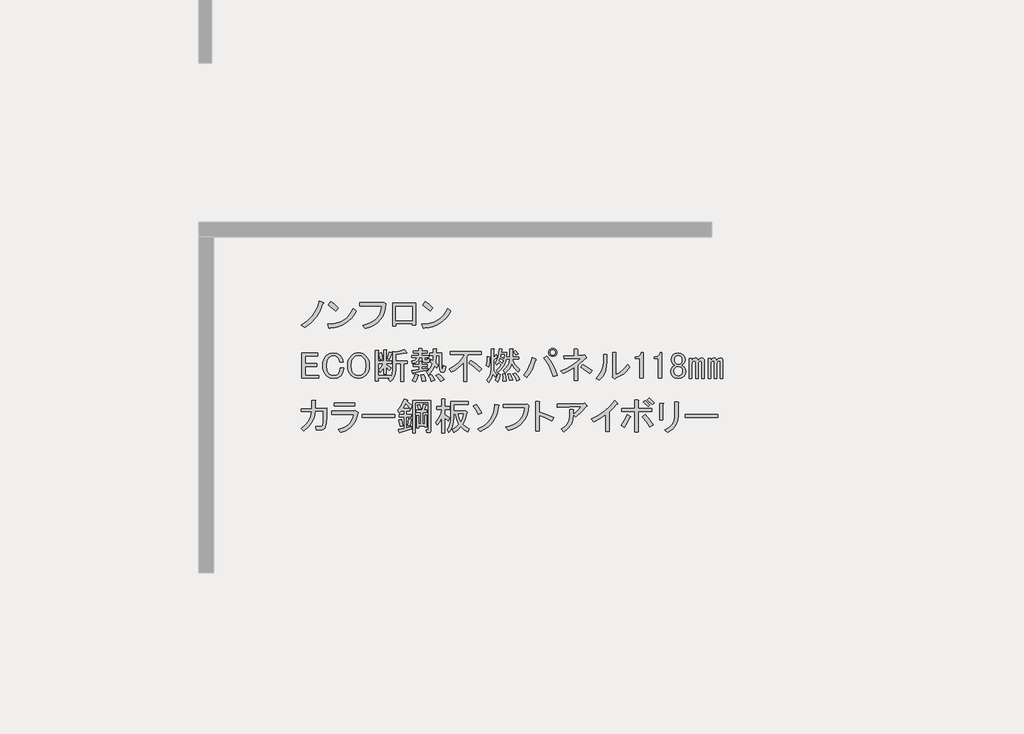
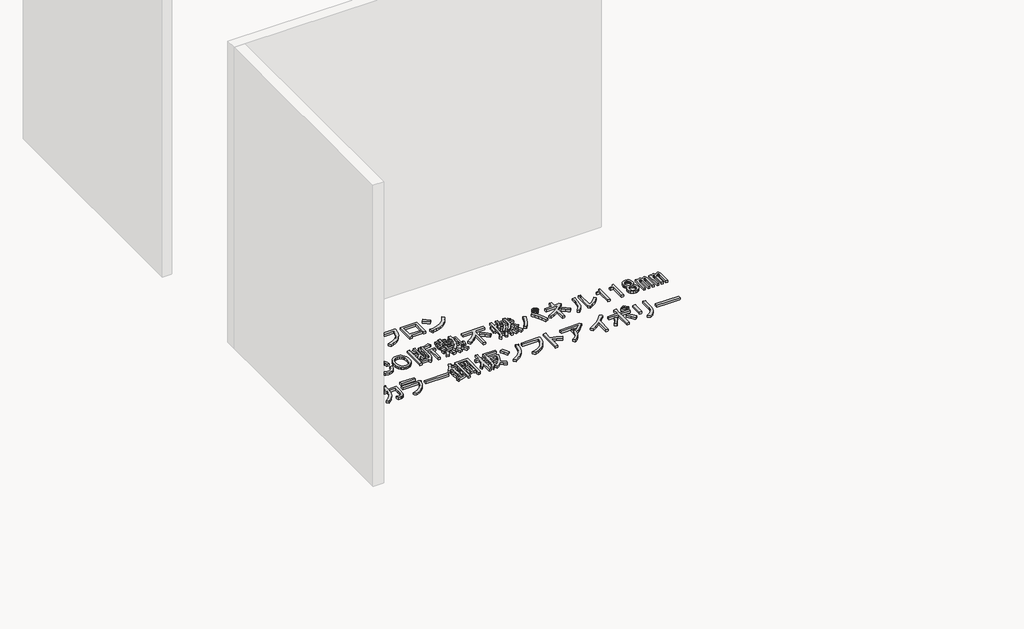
# One storey, part 47 of 117: 1 proxy.
"""IFC4 building model written with IfcOpenShell, lengths in millimetres."""

from ifc_helpers import new_model, si_unit, frame, origin, place, context, project, spatial, polyline, outline, extrude, element, save

model = new_model("IFC4")

# Units and contexts
model_context = context("Model", 3, world=origin())
ifc_project = project(units=[si_unit("LENGTHUNIT", "METRE", prefix="MILLI")], contexts=[model_context])

# Site, building, storey
site = spatial("IfcSite", under=ifc_project)
building = spatial("IfcBuilding", under=site)
storey = spatial("IfcBuildingStorey", under=building, Name="レベル 1", Elevation=500.0)

# Proxy
placement = place(None, origin())
element("IfcBuildingElementProxy", 1, Name="200㎜\u3000MS Pゴシック", ObjectType="200㎜\u3000MS Pゴシック", at=placement, inside=storey, context=model_context, shape_type="SweptSolid", body=[
    extrude(outline(polyline([(24977.6706985, -8641.0496882), (24952.0952502, -8700.8215225), (24923.646156, -8746.7998566), (24881.9782907, -8792.2034615), (24832.8389462, -8829.560858), (24805.2519457, -8807.7211493), (24852.9544673, -8777.2605029), (24892.6107805, -8738.7536481), (24909.9963381, -8714.8305462), (24925.3703435, -8686.7406577), (24938.7327969, -8654.4839827), (24950.0836981, -8618.0605212), (24981.1190736, -8631.8540214), (24984.2800841, -8636.4518548), (24977.6706985, -8641.0496882)])), frame((0.0, 0.0, 500.0), z_axis=(0.0, 0.0, 1.0), x_axis=(1.0, 0.0, 0.0)), (0.0, 0.0, 1.0), 25.0),
    extrude(outline(polyline([(25077.3977052, -8696.2236891), (25018.7753292, -8649.0958967), (25038.3161212, -8624.9572713), (25065.6157571, -8644.7854279), (25099.2374138, -8674.3839804), (25077.3977052, -8696.2236891)])), frame((0.0, 0.0, 500.0), z_axis=(0.0, 0.0, 1.0), x_axis=(1.0, 0.0, 0.0)), (0.0, 0.0, 1.0), 25.0),
    extrude(outline(polyline([(25239.4713328, -8696.2236891), (25222.947869, -8725.965924), (25203.8381239, -8751.9724192), (25182.1420975, -8774.2431748), (25157.8597898, -8792.7781907), (25130.9912008, -8807.577467), (25101.5363306, -8818.6410036), (25069.495179, -8825.9688006), (25034.8677461, -8829.560858), (25029.1204544, -8837.6070664), (25023.3731626, -8831.8597747), (25014.1774958, -8801.9738575), (25050.0082679, -8799.2977748), (25082.7857912, -8792.9937141), (25112.5100658, -8783.0616756), (25139.1810916, -8769.5016591), (25162.7988687, -8752.3136646), (25183.363397, -8731.4976923), (25200.8746766, -8707.053742), (25215.3327074, -8678.9818138), (25239.4713328, -8696.2236891)])), frame((0.0, 0.0, 500.0), z_axis=(0.0, 0.0, 1.0), x_axis=(1.0, 0.0, 0.0)), (0.0, 0.0, 1.0), 25.0),
    extrude(outline(polyline([(25290.2314136, -8811.1695243), (25324.014713, -8801.4889298), (25353.5234641, -8789.1142922), (25378.757667, -8774.0456116), (25399.7173217, -8756.282888), (25416.402428, -8735.8261214), (25428.8129862, -8712.6753118), (25436.9489961, -8686.8304591), (25440.8104577, -8658.2915635), (25268.3917049, -8658.2915635), (25268.3917049, -8633.0034798), (25443.1093744, -8633.0034798), (25459.2017914, -8629.5551047), (25471.8458332, -8641.0496882), (25468.325617, -8677.5449909), (25460.0638851, -8710.5919185), (25447.0606375, -8740.1904711), (25429.3158742, -8766.3406486), (25406.8295952, -8789.042451), (25379.6018005, -8808.2958784), (25347.6324901, -8824.1009308), (25310.921664, -8836.4576081), (25290.2314136, -8811.1695243)])), frame((0.0, 0.0, 500.0), z_axis=(0.0, 0.0, 1.0), x_axis=(1.0, 0.0, 0.0)), (0.0, 0.0, 1.0), 25.0),
    extrude(outline(polyline([(25704.955987, -8810.020066), (25678.5184449, -8810.020066), (25678.5184449, -8797.3760241), (25550.9285679, -8797.3760241), (25550.9285679, -8815.7673577), (25524.4910258, -8815.7673577), (25524.4910258, -8636.4518548), (25704.955987, -8636.4518548), (25704.955987, -8810.020066)]), holes=[polyline([(25550.9285679, -8661.7399386), (25550.9285679, -8772.0879404), (25678.5184449, -8772.0879404), (25678.5184449, -8661.7399386), (25550.9285679, -8661.7399386)])]), frame((0.0, 0.0, 500.0), z_axis=(0.0, 0.0, 1.0), x_axis=(1.0, 0.0, 0.0)), (0.0, 0.0, 1.0), 25.0),
    extrude(outline(polyline([(25981.0099049, -8696.2236891), (25964.4864411, -8725.965924), (25945.376696, -8751.9724192), (25923.6806696, -8774.2431748), (25899.3983619, -8792.7781907), (25872.5297729, -8807.577467), (25843.0749026, -8818.6410036), (25811.0337511, -8825.9688006), (25776.4063182, -8829.560858), (25770.6590264, -8837.6070664), (25764.9117347, -8831.8597747), (25755.7160679, -8801.9738575), (25791.5468399, -8799.2977748), (25824.3243633, -8792.9937141), (25854.0486378, -8783.0616756), (25880.7196637, -8769.5016591), (25904.3374407, -8752.3136646), (25924.9019691, -8731.4976923), (25942.4132486, -8707.053742), (25956.8712795, -8678.9818138), (25981.0099049, -8696.2236891)])), frame((0.0, 0.0, 500.0), z_axis=(0.0, 0.0, 1.0), x_axis=(1.0, 0.0, 0.0)), (0.0, 0.0, 1.0), 25.0),
    extrude(outline(polyline([(25818.9362772, -8696.2236891), (25760.3139013, -8649.0958967), (25779.8546933, -8624.9572713), (25807.1543291, -8644.7854279), (25840.7759859, -8674.3839804), (25818.9362772, -8696.2236891)])), frame((0.0, 0.0, 500.0), z_axis=(0.0, 0.0, 1.0), x_axis=(1.0, 0.0, 0.0)), (0.0, 0.0, 1.0), 25.0),
    extrude(outline(polyline([(24810.9992375, -9029.5551047), (24937.4396562, -9029.5551047), (24937.4396562, -9051.3948134), (24837.4367796, -9051.3948134), (24837.4367796, -9112.316106), (24930.5429061, -9112.316106), (24930.5429061, -9134.1558147), (24837.4367796, -9134.1558147), (24837.4367796, -9204.2727742), (24943.186948, -9204.2727742), (24943.186948, -9226.1124829), (24810.9992375, -9226.1124829), (24810.9992375, -9029.5551047)])), frame((0.0, 0.0, 500.0), z_axis=(0.0, 0.0, 1.0), x_axis=(1.0, 0.0, 0.0)), (0.0, 0.0, 1.0), 25.0),
    extrude(outline(polyline([(24975.2798252, -9128.408523), (24977.0758538, -9104.485421), (24982.4639399, -9083.2922827), (24991.4440832, -9064.8291079), (25004.016284, -9049.0958967), (25029.0170031, -9032.7161152), (25060.3397432, -9027.256188), (25091.0877541, -9032.141386), (25114.3642858, -9046.79698), (25130.1693381, -9070.3608762), (25136.2039944, -9099.6720642), (25108.616994, -9099.6720642), (25103.731796, -9078.4070847), (25093.6740354, -9062.8893969), (25078.4437123, -9052.5442717), (25060.3397432, -9049.0958967), (25040.7989512, -9053.1190009), (25023.5570759, -9065.1883136), (25014.5050914, -9076.8984206), (25008.0393882, -9091.3384911), (25002.8668256, -9128.408523), (25008.0393882, -9165.4785548), (25014.5050914, -9179.9186254), (25023.5570759, -9191.6287323), (25040.2242221, -9202.8359513), (25060.3397432, -9206.5716909), (25080.742629, -9203.4106804), (25095.9729521, -9193.927649), (25108.0422648, -9174.3868571), (25112.0653691, -9147.949315), (25139.6523695, -9147.949315), (25133.3303486, -9182.7204301), (25126.2899162, -9196.8731361), (25116.6632025, -9208.8706076), (25105.8151893, -9217.4197041), (25092.8119417, -9223.5262016), (25060.3397432, -9228.4113996), (25029.0170031, -9222.9514724), (25004.016284, -9206.5716909), (24991.4440832, -9190.9103209), (24982.4639399, -9172.6626695), (24977.0758538, -9151.8287369), (24975.2798252, -9128.408523)])), frame((0.0, 0.0, 500.0), z_axis=(0.0, 0.0, 1.0), x_axis=(1.0, 0.0, 0.0)), (0.0, 0.0, 1.0), 25.0),
    extrude(outline(polyline([(25170.6417667, -9127.2590646), (25172.3659542, -9104.4135799), (25177.5385168, -9084.1543764), (25186.1594544, -9066.4814543), (25198.2287671, -9051.3948134), (25210.9446501, -9040.8341648), (25224.9536738, -9033.2908443), (25240.2558381, -9028.7648521), (25256.8511431, -9027.256188), (25273.446448, -9028.7648521), (25288.7486123, -9033.2908443), (25302.757636, -9040.8341648), (25315.473519, -9051.3948134), (25327.5428317, -9066.4814543), (25336.1637694, -9084.1543764), (25341.336332, -9104.4135799), (25343.0605195, -9127.2590646), (25341.336332, -9150.1045494), (25336.1637694, -9170.3637528), (25327.5428317, -9188.036675), (25315.473519, -9203.1233159), (25302.757636, -9213.6839645), (25288.7486123, -9221.2272849), (25273.446448, -9225.7532772), (25256.8511431, -9227.2619413), (25240.2558381, -9225.7532772), (25224.9536738, -9221.2272849), (25210.9446501, -9213.6839645), (25198.2287671, -9203.1233159), (25186.1594544, -9188.036675), (25177.5385168, -9170.3637528), (25172.3659542, -9150.1045494), (25170.6417667, -9127.2590646)]), holes=[polyline([(25256.8511431, -9049.0958967), (25236.1608927, -9053.4063655), (25217.7695591, -9066.337772), (25209.2204626, -9077.4731498), (25203.1139651, -9091.3384911), (25198.2287671, -9127.2590646), (25203.1139651, -9163.1796381), (25209.2204626, -9177.0449795), (25217.7695591, -9188.1803573), (25236.1608927, -9201.1117637), (25256.8511431, -9205.4222326), (25277.5413934, -9201.1117637), (25295.932727, -9188.1803573), (25304.4818235, -9177.0449795), (25310.588321, -9163.1796381), (25315.473519, -9127.2590646), (25310.588321, -9091.3384911), (25304.4818235, -9077.4731498), (25295.932727, -9066.337772), (25277.5413934, -9053.4063655), (25256.8511431, -9049.0958967)])]), frame((0.0, 0.0, 500.0), z_axis=(0.0, 0.0, 1.0), x_axis=(1.0, 0.0, 0.0)), (0.0, 0.0, 1.0), 25.0),
    extrude(outline(polyline([(25481.8691101, -9073.2345221), (25499.1109854, -9020.3594379), (25519.8012357, -9026.1067296), (25521.5254232, -9029.2677401), (25517.502319, -9031.8540214), (25500.2604437, -9080.1312722), (25481.8691101, -9073.2345221)])), frame((0.0, 0.0, 500.0), z_axis=(0.0, 0.0, 1.0), x_axis=(1.0, 0.0, 0.0)), (0.0, 0.0, 1.0), 25.0),
    extrude(outline(polyline([(25635.8965292, -9024.9572713), (25634.1723417, -9029.5551047), (25626.7008624, -9027.256188), (25549.6871528, -9039.9002299), (25549.6871528, -9089.326939), (25641.643821, -9089.326939), (25641.643821, -9111.1666477), (25610.6084455, -9111.1666477), (25610.6084455, -9251.4005666), (25587.6192785, -9251.4005666), (25587.6192785, -9111.1666477), (25549.6871528, -9111.1666477), (25549.6871528, -9160.5933568), (25547.1008716, -9188.3958807), (25539.3420277, -9213.1810764), (25526.4106212, -9234.948944), (25508.3066522, -9253.6994833), (25491.0647769, -9234.1586914), (25501.4099021, -9224.9630245), (25411.7521506, -9224.9630245), (25411.7521506, -9246.8027332), (25388.7629836, -9246.8027332), (25388.7629836, -9007.715396), (25410.6026922, -9007.715396), (25415.4878902, -9010.0143127), (25411.7521506, -9014.6121461), (25411.7521506, -9090.4763974), (25454.2821096, -9090.4763974), (25454.2821096, -9003.1175626), (25472.6734433, -9003.1175626), (25477.5586413, -9005.4164793), (25473.8229016, -9010.0143127), (25473.8229016, -9090.4763974), (25517.502319, -9090.4763974), (25517.502319, -9108.867731), (25473.8229016, -9108.867731), (25473.8229016, -9118.0633978), (25514.0539439, -9144.5009399), (25500.2604437, -9166.3406486), (25473.8229016, -9139.9031065), (25473.8229016, -9192.7781907), (25454.2821096, -9192.7781907), (25454.2821096, -9144.5009399), (25441.0633386, -9164.3290965), (25426.6951092, -9180.1341488), (25414.0510673, -9161.7428152), (25435.890776, -9137.6041898), (25453.1326513, -9108.867731), (25411.7521506, -9108.867731), (25411.7521506, -9203.1233159), (25509.4561105, -9203.1233159), (25509.4561105, -9216.9168161), (25522.387517, -9192.7781907), (25526.6979858, -9159.4438985), (25526.6979858, -9014.6121461), (25548.5376945, -9020.3594379), (25584.7456326, -9012.8879586), (25615.2062789, -8999.6691875), (25635.8965292, -9024.9572713)])), frame((0.0, 0.0, 500.0), z_axis=(0.0, 0.0, 1.0), x_axis=(1.0, 0.0, 0.0)), (0.0, 0.0, 1.0), 25.0),
    extrude(outline(polyline([(25427.8445675, -9081.2807305), (25415.2005257, -9030.7045631), (25434.7413176, -9023.8078129), (25442.5001615, -9047.9464383), (25447.3853595, -9074.3839804), (25427.8445675, -9081.2807305)])), frame((0.0, 0.0, 500.0), z_axis=(0.0, 0.0, 1.0), x_axis=(1.0, 0.0, 0.0)), (0.0, 0.0, 1.0), 25.0),
    extrude(outline(polyline([(25771.5326148, -9197.3760241), (25781.5903754, -9224.67566), (25786.4755734, -9246.8027332), (25757.7391146, -9252.550025), (25755.1528333, -9230.9976809), (25747.3939894, -9200.8243992), (25771.5326148, -9197.3760241)])), frame((0.0, 0.0, 500.0), z_axis=(0.0, 0.0, 1.0), x_axis=(1.0, 0.0, 0.0)), (0.0, 0.0, 1.0), 25.0),
    extrude(outline(polyline([(25827.856074, -9250.2511083), (25819.522501, -9225.5377537), (25806.0163654, -9204.2727742), (25826.7066157, -9196.2265657), (25843.6611264, -9217.7789098), (25855.4430745, -9241.0554415), (25827.856074, -9250.2511083)])), frame((0.0, 0.0, 500.0), z_axis=(0.0, 0.0, 1.0), x_axis=(1.0, 0.0, 0.0)), (0.0, 0.0, 1.0), 25.0),
    extrude(outline(polyline([(25726.7037391, -9201.9738575), (25730.1521141, -9206.8590555), (25724.4048224, -9210.020066), (25714.6344264, -9235.5955143), (25703.714572, -9254.8489417), (25680.725405, -9243.3543582), (25693.3694469, -9219.790462), (25703.714572, -9192.7781907), (25726.7037391, -9201.9738575)])), frame((0.0, 0.0, 500.0), z_axis=(0.0, 0.0, 1.0), x_axis=(1.0, 0.0, 0.0)), (0.0, 0.0, 1.0), 25.0),
    extrude(outline(polyline([(25758.8885729, -9065.1883136), (25733.6004892, -9065.1883136), (25729.0026558, -9082.6457123), (25718.6575306, -9095.9363245), (25702.5651137, -9105.0601502), (25680.725405, -9110.0171893), (25676.1275716, -9090.4763974), (25701.4156553, -9081.8554597), (25708.8871346, -9074.5276627), (25712.9102388, -9065.1883136), (25677.2770299, -9065.1883136), (25677.2770299, -9046.79698), (25731.3015725, -9046.79698), (25731.3015725, -9029.5551047), (25687.6221551, -9029.5551047), (25687.6221551, -9011.1637711), (25731.3015725, -9011.1637711), (25731.3015725, -8992.7724374), (25753.1412812, -8992.7724374), (25758.0264792, -8995.0713541), (25754.2907395, -8999.6691875), (25754.2907395, -9011.1637711), (25796.8206985, -9011.1637711), (25796.8206985, -9029.5551047), (25754.2907395, -9029.5551047), (25754.2907395, -9046.79698), (25807.1658237, -9046.79698), (25807.1658237, -9065.1883136), (25778.4293649, -9065.1883136), (25778.4293649, -9077.8323555), (25779.8661878, -9083.0049181), (25784.1766567, -9084.7291056), (25794.5217818, -9084.7291056), (25798.2575215, -9081.5680951), (25797.9701569, -9072.0850637), (25817.5109489, -9074.3839804), (25814.637303, -9095.9363245), (25809.3210581, -9101.3244106), (25801.4185319, -9103.1204392), (25777.2799066, -9103.1204392), (25763.4864063, -9098.2352412), (25758.8885729, -9083.5796472), (25758.8885729, -9065.1883136)])), frame((0.0, 0.0, 500.0), z_axis=(0.0, 0.0, 1.0), x_axis=(1.0, 0.0, 0.0)), (0.0, 0.0, 1.0), 25.0),
    extrude(outline(polyline([(25889.9268251, -9047.9464383), (25868.0871164, -9047.9464383), (25863.489283, -9105.4193559), (25883.0300749, -9123.8106896), (25872.6849498, -9145.6503983), (25856.5925328, -9129.5579813), (25837.3391054, -9167.2027424), (25807.1658237, -9199.6749408), (25789.9239484, -9178.9846905), (25805.0105893, -9167.0590601), (25818.085678, -9151.9724192), (25829.1492147, -9133.7247679), (25838.2011992, -9112.316106), (25820.9593239, -9097.3731475), (25829.0055324, -9080.1312722), (25842.7990326, -9090.4763974), (25845.0979493, -9047.9464383), (25817.5109489, -9047.9464383), (25817.5109489, -9029.5551047), (25845.0979493, -9029.5551047), (25845.0979493, -8995.0713541), (25866.937658, -8995.0713541), (25871.822856, -8997.3702708), (25868.0871164, -9001.9681043), (25868.0871164, -9029.5551047), (25909.467617, -9029.5551047), (25909.467617, -9126.1096063), (25912.9159921, -9150.2482317), (25916.1488437, -9152.2597838), (25918.9506484, -9149.0987733), (25923.2611173, -9127.2590646), (25942.8019092, -9134.1558147), (25938.275917, -9160.9525626), (25930.445232, -9176.9731384), (25919.3098542, -9182.2175421), (25904.8697836, -9176.6857738), (25898.3322393, -9169.3579768), (25893.6625647, -9157.719711), (25889.9268251, -9121.5117729), (25889.9268251, -9047.9464383)])), frame((0.0, 0.0, 500.0), z_axis=(0.0, 0.0, 1.0), x_axis=(1.0, 0.0, 0.0)), (0.0, 0.0, 1.0), 25.0),
    extrude(outline(polyline([(25688.7716134, -9187.0308989), (25686.7600613, -9191.9160969), (25683.0243217, -9190.479274), (25677.2770299, -9166.3406486), (25732.4510308, -9158.2944401), (25732.4510308, -9135.3052731), (25688.7716134, -9135.3052731), (25688.7716134, -9116.9139395), (25732.4510308, -9116.9139395), (25732.4510308, -9093.9247724), (25750.8423645, -9093.9247724), (25755.7275625, -9096.2236891), (25751.9918228, -9100.8215225), (25751.9918228, -9116.9139395), (25796.8206985, -9116.9139395), (25796.8206985, -9135.3052731), (25751.9918228, -9135.3052731), (25751.9918228, -9154.8460651), (25802.5679903, -9145.6503983), (25802.5679903, -9161.7428152), (25688.7716134, -9187.0308989)])), frame((0.0, 0.0, 500.0), z_axis=(0.0, 0.0, 1.0), x_axis=(1.0, 0.0, 0.0)), (0.0, 0.0, 1.0), 25.0),
    extrude(outline(polyline([(25886.47845, -9191.6287323), (25911.1918046, -9212.8937119), (25930.1578674, -9237.6070664), (25903.7203253, -9252.550025), (25884.4668979, -9222.9514724), (25865.7881997, -9203.1233159), (25886.47845, -9191.6287323)])), frame((0.0, 0.0, 500.0), z_axis=(0.0, 0.0, 1.0), x_axis=(1.0, 0.0, 0.0)), (0.0, 0.0, 1.0), 25.0),
    extrude(outline(polyline([(26204.8784135, -9175.5363154), (26165.7968295, -9137.3168252), (26124.4163289, -9107.7182726), (26140.5087458, -9087.0280223), (26184.1881632, -9115.1897519), (26225.5686638, -9153.6966067), (26204.8784135, -9175.5363154)])), frame((0.0, 0.0, 500.0), z_axis=(0.0, 0.0, 1.0), x_axis=(1.0, 0.0, 0.0)), (0.0, 0.0, 1.0), 25.0),
    extrude(outline(polyline([(25978.4351182, -9014.6121461), (26219.8213721, -9014.6121461), (26219.8213721, -9039.9002299), (26119.8184955, -9039.9002299), (26109.4733703, -9064.0388553), (26109.4733703, -9250.2511083), (26083.0358282, -9250.2511083), (26083.0358282, -9103.1204392), (26062.2018956, -9126.3969709), (26038.7816816, -9146.7998566), (26012.7751864, -9164.3290965), (25984.1824099, -9178.9846905), (25968.089993, -9152.5471484), (26007.674465, -9132.1442626), (26041.3679629, -9106.5688143), (26069.1704868, -9075.8208034), (26091.0820367, -9039.9002299), (25978.4351182, -9039.9002299), (25978.4351182, -9014.6121461)])), frame((0.0, 0.0, 500.0), z_axis=(0.0, 0.0, 1.0), x_axis=(1.0, 0.0, 0.0)), (0.0, 0.0, 1.0), 25.0),
    extrude(outline(polyline([(26392.2401249, -9249.1016499), (26392.8148541, -9222.0893787), (26389.9412082, -9193.927649), (26409.4820002, -9192.7781907), (26415.8040211, -9218.9283682), (26416.3787503, -9246.8027332), (26392.2401249, -9249.1016499)])), frame((0.0, 0.0, 500.0), z_axis=(0.0, 0.0, 1.0), x_axis=(1.0, 0.0, 0.0)), (0.0, 0.0, 1.0), 25.0),
    extrude(outline(polyline([(26372.6993329, -9197.3760241), (26364.0783953, -9227.8366704), (26349.7101659, -9254.8489417), (26330.1693739, -9242.2048998), (26344.2502387, -9217.4915453), (26354.3079993, -9189.3298156), (26372.6993329, -9197.3760241)])), frame((0.0, 0.0, 500.0), z_axis=(0.0, 0.0, 1.0), x_axis=(1.0, 0.0, 0.0)), (0.0, 0.0, 1.0), 25.0),
    extrude(outline(polyline([(26287.6394149, -9059.4410219), (26292.2372483, -9061.7399386), (26287.6394149, -9066.337772), (26286.4899565, -9105.9940851), (26280.7426647, -9139.9031065), (26262.3513311, -9127.2590646), (26268.0986229, -9092.7753141), (26269.2480812, -9055.9926468), (26287.6394149, -9059.4410219)])), frame((0.0, 0.0, 500.0), z_axis=(0.0, 0.0, 1.0), x_axis=(1.0, 0.0, 0.0)), (0.0, 0.0, 1.0), 25.0),
    extrude(outline(polyline([(26339.3650407, -9041.0496882), (26348.5607075, -9058.2915635), (26349.9975305, -9064.3262199), (26345.1123325, -9064.0388553), (26318.6747904, -9084.7291056), (26318.6747904, -9168.6395653), (26332.4682906, -9180.9962426), (26343.9628741, -9197.3760241), (26331.3188322, -9218.0662744), (26312.9274986, -9192.7781907), (26301.1455505, -9228.6987642), (26279.5932064, -9258.2973168), (26264.6502478, -9239.9059831), (26279.7368887, -9221.1554438), (26290.5130607, -9200.5370346), (26296.978764, -9178.0507556), (26299.1339984, -9153.6966067), (26299.1339984, -8996.2208125), (26317.525332, -8996.2208125), (26322.41053, -8998.5197292), (26318.6747904, -9003.1175626), (26318.6747904, -9061.7399386), (26339.3650407, -9041.0496882)])), frame((0.0, 0.0, 500.0), z_axis=(0.0, 0.0, 1.0), x_axis=(1.0, 0.0, 0.0)), (0.0, 0.0, 1.0), 25.0),
    extrude(outline(polyline([(26489.9440848, -9010.0143127), (26511.7837935, -9034.1529381), (26494.5419182, -9045.6475216), (26487.9325327, -9034.1529381), (26475.0011262, -9020.3594379), (26489.9440848, -9010.0143127)])), frame((0.0, 0.0, 500.0), z_axis=(0.0, 0.0, 1.0), x_axis=(1.0, 0.0, 0.0)), (0.0, 0.0, 1.0), 25.0),
    extrude(outline(polyline([(26500.28921, -9246.8027332), (26487.0704389, -9218.6410036), (26470.4032928, -9193.927649), (26488.7946265, -9185.8814406), (26507.7606893, -9208.8706076), (26523.278377, -9236.4576081), (26500.28921, -9246.8027332)])), frame((0.0, 0.0, 500.0), z_axis=(0.0, 0.0, 1.0), x_axis=(1.0, 0.0, 0.0)), (0.0, 0.0, 1.0), 25.0),
    extrude(outline(polyline([(26450.8625008, -9191.6287323), (26469.2538345, -9241.0554415), (26445.1152091, -9245.6532749), (26431.3217089, -9195.0771074), (26450.8625008, -9191.6287323)])), frame((0.0, 0.0, 500.0), z_axis=(0.0, 0.0, 1.0), x_axis=(1.0, 0.0, 0.0)), (0.0, 0.0, 1.0), 25.0),
    extrude(outline(polyline([(26511.7837935, -9176.6857738), (26481.0357826, -9146.2251274), (26460.0581677, -9112.316106), (26451.6527535, -9134.4431793), (26440.2300111, -9153.6966067), (26425.7899405, -9170.0763882), (26408.3325418, -9183.5825239), (26394.5390416, -9165.1911902), (26415.3729742, -9146.2969686), (26430.7469797, -9125.2475125), (26440.661058, -9102.042822), (26445.1152091, -9076.6828971), (26416.3787503, -9076.6828971), (26408.404383, -9107.2872258), (26394.8264062, -9134.7305439), (26375.6448199, -9159.0128516), (26350.8596242, -9180.1341488), (26338.2155823, -9164.0417319), (26364.0783953, -9142.4893878), (26379.596083, -9121.5117729), (26357.7563743, -9101.9709809), (26343.9628741, -9122.6612312), (26330.1693739, -9107.7182726), (26342.5978923, -9088.6803687), (26352.2964472, -9063.7514907), (26359.2650384, -9032.9316386), (26363.5036661, -8996.2208125), (26384.1939164, -8998.5197292), (26387.6422915, -9001.1060105), (26381.8949997, -9004.267021), (26379.596083, -9022.6583546), (26423.2755004, -9022.6583546), (26419.8271253, -9058.2915635), (26445.1152091, -9058.2915635), (26445.1152091, -8996.2208125), (26466.9549178, -8996.2208125), (26471.8401158, -8998.5197292), (26468.1043761, -9003.1175626), (26468.1043761, -9058.2915635), (26517.5310853, -9058.2915635), (26517.5310853, -9076.6828971), (26468.1043761, -9076.6828971), (26474.6419205, -9098.4507647), (26486.2083452, -9118.9254916), (26502.8036501, -9138.1070778), (26524.4278354, -9155.9955234), (26511.7837935, -9176.6857738)]), holes=[polyline([(26387.6422915, -9106.5688143), (26394.5390416, -9087.0280223), (26369.2509579, -9070.9356054), (26363.5036661, -9088.1774807), (26387.6422915, -9106.5688143)]), polyline([(26377.2971663, -9041.0496882), (26373.8487913, -9057.1421052), (26399.136875, -9070.9356054), (26403.7347084, -9041.0496882), (26377.2971663, -9041.0496882)])]), frame((0.0, 0.0, 500.0), z_axis=(0.0, 0.0, 1.0), x_axis=(1.0, 0.0, 0.0)), (0.0, 0.0, 1.0), 25.0),
    extrude(outline(polyline([(26737.0776305, -9050.245355), (26763.730696, -9086.9561812), (26786.2169751, -9124.6727833), (26804.5364675, -9163.3951616), (26818.6891735, -9203.1233159), (26787.653798, -9213.468441), (26772.2079514, -9170.3637528), (26754.6068704, -9131.856898), (26734.850555, -9097.9478766), (26712.9390051, -9068.6366887), (26737.0776305, -9050.245355)])), frame((0.0, 0.0, 500.0), z_axis=(0.0, 0.0, 1.0), x_axis=(1.0, 0.0, 0.0)), (0.0, 0.0, 1.0), 25.0),
    extrude(outline(polyline([(26649.7187958, -9076.6828971), (26653.7419, -9082.1428243), (26647.419879, -9087.0280223), (26635.4942486, -9122.4457078), (26620.4076078, -9156.282888), (26602.1599564, -9188.539563), (26580.7512946, -9219.2157328), (26554.3137525, -9201.9738575), (26577.518443, -9170.5074351), (26596.556347, -9137.0294606), (26611.4274644, -9101.539934), (26622.1317953, -9064.0388553), (26649.7187958, -9076.6828971)])), frame((0.0, 0.0, 500.0), z_axis=(0.0, 0.0, 1.0), x_axis=(1.0, 0.0, 0.0)), (0.0, 0.0, 1.0), 25.0),
    extrude(outline(polyline([(26783.0559646, -9055.9926468), (26770.4119227, -9053.6937301), (26760.0667975, -9046.79698), (26753.1700474, -9036.4518548), (26750.8711307, -9023.8078129), (26753.1700474, -9011.1637711), (26760.0667975, -9000.8186459), (26770.4119227, -8993.9218958), (26783.0559646, -8991.6229791), (26795.7000065, -8993.9218958), (26806.0451316, -9000.8186459), (26812.9418817, -9011.1637711), (26815.2407984, -9023.8078129), (26812.9418817, -9036.4518548), (26806.0451316, -9046.79698), (26795.7000065, -9053.6937301), (26783.0559646, -9055.9926468)]), holes=[polyline([(26783.0559646, -9044.4980633), (26791.3895376, -9043.0612403), (26797.9989232, -9038.7507715), (26802.309392, -9032.141386), (26803.7462149, -9023.8078129), (26802.309392, -9015.4742399), (26797.9989232, -9008.8648544), (26791.3895376, -9004.5543855), (26783.0559646, -9003.1175626), (26774.7223915, -9004.5543855), (26768.113006, -9008.8648544), (26763.8025372, -9015.4742399), (26762.3657143, -9023.8078129), (26763.8025372, -9032.141386), (26768.113006, -9038.7507715), (26774.7223915, -9043.0612403), (26783.0559646, -9044.4980633)])]), frame((0.0, 0.0, 500.0), z_axis=(0.0, 0.0, 1.0), x_axis=(1.0, 0.0, 0.0)), (0.0, 0.0, 1.0), 25.0),
    extrude(outline(polyline([(27026.7411352, -9045.6475216), (27033.6378853, -9043.3486049), (27046.2819272, -9060.5904802), (27047.4313856, -9066.6251366), (27041.6840938, -9068.6366887), (26978.4638844, -9124.9601479), (26978.4638844, -9245.6532749), (26952.0263423, -9245.6532749), (26952.0263423, -9143.3514816), (26911.7953, -9167.4901069), (26866.9664243, -9189.3298156), (26847.4256323, -9168.6395653), (26892.9729195, -9149.1706145), (26934.2097379, -9126.3969709), (26971.1360874, -9100.3186345), (27003.7519682, -9070.9356054), (26873.8631744, -9076.6828971), (26870.4147993, -9051.3948134), (26952.0263423, -9049.0958967), (26952.0263423, -8997.3702708), (26975.0155094, -8997.3702708), (26981.0501657, -9000.8186459), (26978.4638844, -9006.5659377), (26978.4638844, -9047.9464383), (27026.7411352, -9045.6475216)])), frame((0.0, 0.0, 500.0), z_axis=(0.0, 0.0, 1.0), x_axis=(1.0, 0.0, 0.0)), (0.0, 0.0, 1.0), 25.0),
    extrude(outline(polyline([(27072.7194693, -9189.3298156), (27035.6494375, -9160.0186277), (27002.6025098, -9138.7536481), (27019.8443851, -9116.9139395), (27058.6386045, -9140.1904711), (27092.2602613, -9166.3406486), (27072.7194693, -9189.3298156)])), frame((0.0, 0.0, 500.0), z_axis=(0.0, 0.0, 1.0), x_axis=(1.0, 0.0, 0.0)), (0.0, 0.0, 1.0), 25.0),
    extrude(outline(polyline([(27279.7139293, -9196.2265657), (27304.4991251, -9184.0135708), (27328.2785447, -9166.9153778), (27351.0521883, -9144.9319868), (27372.8200559, -9118.0633978), (27388.9124728, -9139.9031065), (27365.6359412, -9167.7056304), (27339.4857636, -9191.3413678), (27310.4619403, -9210.8103186), (27278.564471, -9226.1124829), (27269.3688042, -9230.7103163), (27250.9774705, -9216.9168161), (27253.2763872, -9211.1695243), (27253.2763872, -9026.1067296), (27277.4150126, -9026.1067296), (27283.1623044, -9029.5551047), (27279.7139293, -9035.3023965), (27279.7139293, -9196.2265657)])), frame((0.0, 0.0, 500.0), z_axis=(0.0, 0.0, 1.0), x_axis=(1.0, 0.0, 0.0)), (0.0, 0.0, 1.0), 25.0),
    extrude(outline(polyline([(27125.6865102, -9227.2619413), (27150.8309116, -9198.0225944), (27168.7911984, -9165.4785548), (27179.5673704, -9129.6298225), (27183.1594278, -9090.4763974), (27183.1594278, -9038.7507715), (27207.2980532, -9038.7507715), (27213.0453449, -9042.1991466), (27209.5969699, -9047.9464383), (27209.5969699, -9089.326939), (27205.7893891, -9135.0897496), (27194.3666467, -9175.82368), (27175.3287427, -9211.5287301), (27148.6756772, -9242.2048998), (27125.6865102, -9227.2619413)])), frame((0.0, 0.0, 500.0), z_axis=(0.0, 0.0, 1.0), x_axis=(1.0, 0.0, 0.0)), (0.0, 0.0, 1.0), 25.0),
    extrude(outline(polyline([(27468.2250991, -9049.0958967), (27476.2713075, -9038.1760423), (27479.7196826, -9026.1067296), (27493.5131828, -9026.1067296), (27493.5131828, -9224.9630245), (27467.0756407, -9224.9630245), (27467.0756407, -9072.0850637), (27432.5918902, -9072.0850637), (27432.5918902, -9058.2915635), (27442.9370153, -9058.2915635), (27457.3052447, -9055.9926468), (27468.2250991, -9049.0958967)])), frame((0.0, 0.0, 500.0), z_axis=(0.0, 0.0, 1.0), x_axis=(1.0, 0.0, 0.0)), (0.0, 0.0, 1.0), 25.0),
    extrude(outline(polyline([(27615.3557681, -9049.0958967), (27623.4019766, -9038.1760423), (27626.8503517, -9026.1067296), (27640.6438519, -9026.1067296), (27640.6438519, -9224.9630245), (27614.2063098, -9224.9630245), (27614.2063098, -9072.0850637), (27579.7225592, -9072.0850637), (27579.7225592, -9058.2915635), (27590.0676844, -9058.2915635), (27604.4359138, -9055.9926468), (27615.3557681, -9049.0958967)])), frame((0.0, 0.0, 500.0), z_axis=(0.0, 0.0, 1.0), x_axis=(1.0, 0.0, 0.0)), (0.0, 0.0, 1.0), 25.0),
    extrude(outline(polyline([(27715.3586448, -9082.4301889), (27719.381749, -9059.4410219), (27731.4510617, -9041.0496882), (27747.8308432, -9030.7045631), (27769.3831873, -9027.256188), (27791.222896, -9030.9919276), (27808.4647713, -9042.1991466), (27819.6719902, -9059.7283864), (27823.4077299, -9082.4301889), (27819.9593548, -9100.5341579), (27809.6142296, -9115.7644811), (27795.8207294, -9123.8106896), (27795.8207294, -9126.1096063), (27805.87849, -9130.1327105), (27815.3615214, -9137.6041898), (27825.7066466, -9153.6966067), (27829.1550216, -9174.3868571), (27825.1319174, -9195.6518366), (27813.0626047, -9213.468441), (27794.6712711, -9224.67566), (27769.3831873, -9228.4113996), (27744.0951036, -9224.67566), (27725.7037699, -9213.468441), (27713.6344572, -9195.6518366), (27709.611353, -9174.3868571), (27713.0597281, -9153.6966067), (27723.4048532, -9137.6041898), (27732.8878846, -9130.1327105), (27742.9456452, -9126.1096063), (27742.9456452, -9123.8106896), (27728.0026866, -9113.4655644), (27718.5196552, -9099.3846996), (27715.3586448, -9082.4301889)]), holes=[polyline([(27769.3831873, -9047.9464383), (27758.7506976, -9049.9579904), (27749.8423953, -9055.9926468), (27742.9456452, -9067.1998657), (27740.6467285, -9082.4301889), (27742.9456452, -9096.7984183), (27749.8423953, -9107.7182726), (27758.463333, -9113.752929), (27768.233729, -9115.7644811), (27780.3030417, -9114.0402936), (27788.9239793, -9108.867731), (27795.8207294, -9097.6605121), (27798.1196461, -9082.4301889), (27795.8207294, -9067.1998657), (27788.9239793, -9055.9926468), (27780.0156771, -9049.9579904), (27769.3831873, -9047.9464383)]), polyline([(27769.3831873, -9135.3052731), (27755.8770517, -9137.6041898), (27745.2445619, -9144.5009399), (27738.3478118, -9155.7081588), (27736.0488951, -9170.938482), (27738.6351764, -9186.4561698), (27746.3940203, -9198.5254825), (27756.7391454, -9205.4222326), (27769.3831873, -9207.7211493), (27782.0272292, -9205.4222326), (27792.3723544, -9198.5254825), (27800.1311982, -9186.4561698), (27802.7174795, -9170.938482), (27800.1311982, -9155.4207942), (27792.3723544, -9143.3514816), (27782.6019584, -9137.3168252), (27769.3831873, -9135.3052731)])]), frame((0.0, 0.0, 500.0), z_axis=(0.0, 0.0, 1.0), x_axis=(1.0, 0.0, 0.0)), (0.0, 0.0, 1.0), 25.0),
    extrude(outline(polyline([(27877.4322724, -9227.2619413), (27857.8914804, -9227.2619413), (27857.8914804, -9069.786147), (27877.4322724, -9069.786147), (27877.4322724, -9087.0280223), (27889.5015851, -9071.5103346), (27902.7203561, -9066.337772), (27911.916023, -9067.7745949), (27918.8127731, -9072.0850637), (27925.7095232, -9085.878564), (27938.6409296, -9071.22297), (27952.1470653, -9066.337772), (27960.4806383, -9067.7745949), (27967.0900239, -9072.0850637), (27972.2625864, -9080.7060014), (27973.986774, -9092.7753141), (27973.986774, -9227.2619413), (27954.445982, -9227.2619413), (27954.445982, -9103.1204392), (27951.8597007, -9093.6374078), (27944.1008568, -9090.4763974), (27933.7557317, -9095.0742308), (27927.7210753, -9103.6951684), (27925.7095232, -9113.4655644), (27925.7095232, -9227.2619413), (27906.1687312, -9227.2619413), (27906.1687312, -9103.1204392), (27903.5824499, -9093.6374078), (27895.823606, -9090.4763974), (27885.4784809, -9095.0742308), (27879.4438245, -9103.6951684), (27877.4322724, -9113.4655644), (27877.4322724, -9227.2619413)])), frame((0.0, 0.0, 500.0), z_axis=(0.0, 0.0, 1.0), x_axis=(1.0, 0.0, 0.0)), (0.0, 0.0, 1.0), 25.0),
    extrude(outline(polyline([(28099.2777343, -9066.337772), (28107.6113074, -9067.7745949), (28114.2206929, -9072.0850637), (28119.3932555, -9080.7060014), (28121.117443, -9092.7753141), (28121.117443, -9227.2619413), (28101.5766511, -9227.2619413), (28101.5766511, -9103.1204392), (28098.9903698, -9093.6374078), (28091.2315259, -9090.4763974), (28080.8864007, -9095.0742308), (28074.8517444, -9103.6951684), (28072.8401922, -9113.4655644), (28072.8401922, -9227.2619413), (28053.2994003, -9227.2619413), (28053.2994003, -9103.1204392), (28050.713119, -9093.6374078), (28042.9542751, -9090.4763974), (28032.6091499, -9095.0742308), (28026.5744936, -9103.6951684), (28024.5629415, -9113.4655644), (28024.5629415, -9227.2619413), (28005.0221495, -9227.2619413), (28005.0221495, -9069.786147), (28024.5629415, -9069.786147), (28024.5629415, -9087.0280223), (28036.6322542, -9071.5103346), (28049.8510252, -9066.337772), (28059.046692, -9067.7745949), (28065.9434421, -9072.0850637), (28072.8401922, -9085.878564), (28085.7715987, -9071.22297), (28099.2777343, -9066.337772)])), frame((0.0, 0.0, 500.0), z_axis=(0.0, 0.0, 1.0), x_axis=(1.0, 0.0, 0.0)), (0.0, 0.0, 1.0), 25.0),
    extrude(outline(polyline([(24981.1190736, -9484.7291056), (24915.5999475, -9487.0280223), (24907.3382156, -9533.293721), (24889.44977, -9574.3868571), (24861.9346107, -9610.3074306), (24824.7927377, -9641.0554415), (24805.2519457, -9621.5146495), (24840.2385843, -9593.2810787), (24865.8858738, -9561.4554506), (24882.1938142, -9526.0377651), (24889.1624054, -9487.0280223), (24807.5508624, -9489.326939), (24805.2519457, -9466.337772), (24890.3118638, -9464.0388553), (24890.3118638, -9399.6691875), (24914.4504892, -9399.6691875), (24921.3472393, -9403.1175626), (24916.7494059, -9408.8648544), (24916.7494059, -9464.0388553), (25007.5566157, -9460.5904802), (25007.5566157, -9531.856898), (25004.9703344, -9579.8467842), (24997.2114905, -9611.1695243), (24990.602105, -9621.2272849), (24981.1190736, -9628.4113996), (24968.7623963, -9632.7218684), (24953.5320731, -9634.1586914), (24925.9450727, -9634.1586914), (24922.4966976, -9605.4222326), (24952.3826148, -9607.7211493), (24966.4634796, -9604.8475034), (24974.2223235, -9596.2265657), (24979.3948861, -9570.938482), (24981.1190736, -9531.856898), (24981.1190736, -9484.7291056)])), frame((0.0, 0.0, 500.0), z_axis=(0.0, 0.0, 1.0), x_axis=(1.0, 0.0, 0.0)), (0.0, 0.0, 1.0), 25.0),
    extrude(outline(polyline([(25225.8617459, -9444.4980633), (25067.2364933, -9444.4980633), (25067.2364933, -9419.2099795), (25225.8617459, -9419.2099795), (25225.8617459, -9444.4980633)])), frame((0.0, 0.0, 500.0), z_axis=(0.0, 0.0, 1.0), x_axis=(1.0, 0.0, 0.0)), (0.0, 0.0, 1.0), 25.0),
    extrude(outline(polyline([(25095.9729521, -9630.7103163), (25145.6151847, -9612.3908238), (25165.8564279, -9600.2676303), (25183.0444223, -9586.1688052), (25197.179168, -9570.0943485), (25208.2606649, -9552.0442603), (25216.2889131, -9532.0185406), (25221.2639125, -9510.0171893), (25046.546243, -9510.0171893), (25046.546243, -9484.7291056), (25222.4133709, -9484.7291056), (25232.758496, -9481.2807305), (25253.4487464, -9493.9247724), (25256.3223922, -9499.3846996), (25251.1498297, -9504.2698976), (25245.0253719, -9531.7491363), (25235.8476653, -9556.7139349), (25223.6167101, -9579.1642933), (25208.332506, -9599.1002116), (25189.9950533, -9616.5216898), (25168.6043517, -9631.4287278), (25144.1604015, -9643.8213256), (25116.6632025, -9653.6994833), (25095.9729521, -9630.7103163)])), frame((0.0, 0.0, 500.0), z_axis=(0.0, 0.0, 1.0), x_axis=(1.0, 0.0, 0.0)), (0.0, 0.0, 1.0), 25.0),
    extrude(outline(polyline([(25284.8979269, -9535.3052731), (25284.8979269, -9510.0171893), (25541.2271394, -9510.0171893), (25541.2271394, -9535.3052731), (25284.8979269, -9535.3052731)])), frame((0.0, 0.0, 500.0), z_axis=(0.0, 0.0, 1.0), x_axis=(1.0, 0.0, 0.0)), (0.0, 0.0, 1.0), 25.0),
    extrude(outline(polyline([(25789.2342734, -9433.0034798), (25791.8205547, -9436.4518548), (25785.7858984, -9439.9002299), (25773.1418565, -9477.8323555), (25793.8321068, -9477.8323555), (25793.8321068, -9496.2236891), (25762.7967313, -9496.2236891), (25762.7967313, -9584.7319822), (25777.7396899, -9584.7319822), (25777.7396899, -9516.9139395), (25793.8321068, -9516.9139395), (25793.8321068, -9611.1695243), (25777.7396899, -9611.1695243), (25777.7396899, -9603.1233159), (25731.7613558, -9603.1233159), (25731.7613558, -9615.7673577), (25715.6689389, -9615.7673577), (25715.6689389, -9519.2128562), (25731.7613558, -9519.2128562), (25731.7613558, -9584.7319822), (25746.7043144, -9584.7319822), (25746.7043144, -9496.2236891), (25711.0711055, -9496.2236891), (25711.0711055, -9477.8323555), (25757.0494396, -9477.8323555), (25767.3945647, -9428.4056463), (25789.2342734, -9433.0034798)])), frame((0.0, 0.0, 500.0), z_axis=(0.0, 0.0, 1.0), x_axis=(1.0, 0.0, 0.0)), (0.0, 0.0, 1.0), 25.0),
    extrude(outline(polyline([(25668.5411464, -9468.6366887), (25627.1606458, -9424.9572713), (25605.3209371, -9464.0388553), (25660.494938, -9464.0388553), (25660.494938, -9482.4301889), (25634.0573959, -9482.4301889), (25634.0573959, -9511.1666477), (25671.9895215, -9511.1666477), (25671.9895215, -9529.5579813), (25634.0573959, -9529.5579813), (25634.0573959, -9616.9168161), (25673.1389799, -9606.5716909), (25675.4378966, -9626.1124829), (25583.4812284, -9651.4005666), (25581.1823117, -9657.1478584), (25576.5844783, -9653.6994833), (25569.6877282, -9630.7103163), (25614.5166039, -9621.5146495), (25614.5166039, -9529.5579813), (25576.5844783, -9529.5579813), (25576.5844783, -9511.1666477), (25614.5166039, -9511.1666477), (25614.5166039, -9482.4301889), (25592.6768952, -9482.4301889), (25577.7339366, -9500.8215225), (25565.0898948, -9480.1312722), (25593.2516244, -9442.4865112), (25617.964979, -9391.6229791), (25639.8046876, -9397.3702708), (25643.2530627, -9401.1060105), (25637.5057709, -9403.1175626), (25636.3563126, -9406.5659377), (25681.1851883, -9444.4980633), (25668.5411464, -9468.6366887)])), frame((0.0, 0.0, 500.0), z_axis=(0.0, 0.0, 1.0), x_axis=(1.0, 0.0, 0.0)), (0.0, 0.0, 1.0), 25.0),
    extrude(outline(polyline([(25736.3591892, -9431.8540214), (25743.5433039, -9447.0843446), (25749.0032311, -9467.4872303), (25731.7613558, -9473.2345221), (25720.2667723, -9436.4518548), (25736.3591892, -9431.8540214)])), frame((0.0, 0.0, 500.0), z_axis=(0.0, 0.0, 1.0), x_axis=(1.0, 0.0, 0.0)), (0.0, 0.0, 1.0), 25.0),
    extrude(outline(polyline([(25683.484105, -9399.6691875), (25823.718024, -9399.6691875), (25823.718024, -9639.9059831), (25819.9822843, -9651.1132021), (25808.7750654, -9654.8489417), (25792.6826485, -9654.8489417), (25788.0848151, -9633.009233), (25799.5793986, -9633.009233), (25803.0277736, -9631.8597747), (25804.177232, -9628.4113996), (25804.177232, -9418.0605212), (25703.024897, -9418.0605212), (25703.024897, -9657.1478584), (25683.484105, -9657.1478584), (25683.484105, -9399.6691875)])), frame((0.0, 0.0, 500.0), z_axis=(0.0, 0.0, 1.0), x_axis=(1.0, 0.0, 0.0)), (0.0, 0.0, 1.0), 25.0),
    extrude(outline(polyline([(25671.9895215, -9547.949315), (25674.5758028, -9551.1103254), (25670.8400632, -9553.6966067), (25662.7938547, -9600.8243992), (25644.4025211, -9598.5254825), (25650.1498128, -9544.5009399), (25671.9895215, -9547.949315)])), frame((0.0, 0.0, 500.0), z_axis=(0.0, 0.0, 1.0), x_axis=(1.0, 0.0, 0.0)), (0.0, 0.0, 1.0), 25.0),
    extrude(outline(polyline([(25594.9758119, -9549.0987733), (25606.4703954, -9600.8243992), (25585.7801451, -9606.5716909), (25574.2855616, -9554.8460651), (25594.9758119, -9549.0987733)])), frame((0.0, 0.0, 500.0), z_axis=(0.0, 0.0, 1.0), x_axis=(1.0, 0.0, 0.0)), (0.0, 0.0, 1.0), 25.0),
    extrude(outline(polyline([(25912.2263171, -9657.1478584), (25912.2263171, -9537.6041898), (25894.4097126, -9571.8005758), (25875.4436498, -9593.927649), (25863.9490663, -9573.2373987), (25881.1909416, -9550.5355963), (25894.9844418, -9526.1096063), (25905.329567, -9499.9594288), (25912.2263171, -9472.0850637), (25870.8458164, -9472.0850637), (25870.8458164, -9450.245355), (25912.2263171, -9450.245355), (25912.2263171, -9390.4735207), (25934.0660258, -9390.4735207), (25938.9512238, -9392.7724374), (25935.2154841, -9397.3702708), (25935.2154841, -9450.245355), (25973.1476097, -9450.245355), (25973.1476097, -9472.0850637), (25935.2154841, -9472.0850637), (25935.2154841, -9512.316106), (25973.1476097, -9538.7536481), (25962.8024846, -9561.7428152), (25935.2154841, -9538.7536481), (25935.2154841, -9657.1478584), (25912.2263171, -9657.1478584)])), frame((0.0, 0.0, 500.0), z_axis=(0.0, 0.0, 1.0), x_axis=(1.0, 0.0, 0.0)), (0.0, 0.0, 1.0), 25.0),
    extrude(outline(polyline([(25994.9873184, -9628.4113996), (26023.7237772, -9611.1695243), (26045.5634859, -9589.3298156), (26027.7468815, -9547.3745858), (26017.9764855, -9506.5688143), (26005.3324436, -9506.5688143), (26005.3324436, -9530.7074397), (26002.8898446, -9572.4471461), (25995.5620476, -9606.8590555), (25983.3490526, -9633.9431679), (25966.2508596, -9653.6994833), (25952.4573594, -9630.7103163), (25965.5324482, -9613.3247587), (25974.8717973, -9591.0540032), (25980.4754067, -9563.8980496), (25982.3432766, -9531.856898), (25982.3432766, -9411.1637711), (26119.1288204, -9411.1637711), (26119.1288204, -9433.0034798), (26005.3324436, -9433.0034798), (26005.3324436, -9484.7291056), (26084.6450699, -9484.7291056), (26090.3923616, -9478.9818138), (26109.9331536, -9492.7753141), (26111.3699766, -9496.5110537), (26106.4847786, -9500.8215225), (26094.1281013, -9547.3745858), (26075.4494031, -9588.1803573), (26094.4154659, -9606.5716909), (26126.0255706, -9624.9630245), (26116.8299037, -9649.1016499), (26088.9555387, -9633.009233), (26060.5064445, -9607.7211493), (26036.0804545, -9632.1471392), (26004.1829852, -9652.550025), (25994.9873184, -9628.4113996)]), holes=[polyline([(26039.8161942, -9506.5688143), (26047.8624026, -9539.6157419), (26060.5064445, -9567.4901069), (26073.1504864, -9541.3399294), (26081.1966948, -9506.5688143), (26039.8161942, -9506.5688143)])]), frame((0.0, 0.0, 500.0), z_axis=(0.0, 0.0, 1.0), x_axis=(1.0, 0.0, 0.0)), (0.0, 0.0, 1.0), 25.0),
    extrude(outline(polyline([(26292.6970316, -9551.39769), (26304.8381855, -9530.5637574), (26314.8241049, -9503.6951684), (26322.6547899, -9470.7919231), (26328.3302405, -9431.8540214), (26357.0666993, -9436.4518548), (26361.9518973, -9440.1875945), (26355.917241, -9446.79698), (26350.6728372, -9482.1428243), (26341.8363762, -9514.6150228), (26329.4078577, -9544.2135753), (26313.3872819, -9570.938482), (26297.294865, -9589.9045448), (26275.4551563, -9608.8706076), (26214.5338637, -9646.8027332), (26193.8436133, -9626.1124829), (26224.5916242, -9610.2355894), (26251.3165309, -9592.4908261), (26274.0183334, -9572.878193), (26292.6970316, -9551.39769)])), frame((0.0, 0.0, 500.0), z_axis=(0.0, 0.0, 1.0), x_axis=(1.0, 0.0, 0.0)), (0.0, 0.0, 1.0), 25.0),
    extrude(outline(polyline([(26198.4414467, -9513.4655644), (26178.038561, -9474.0966158), (26158.2104044, -9445.6475216), (26183.4984882, -9431.8540214), (26203.6140093, -9460.5904802), (26224.8789888, -9498.5226058), (26198.4414467, -9513.4655644)])), frame((0.0, 0.0, 500.0), z_axis=(0.0, 0.0, 1.0), x_axis=(1.0, 0.0, 0.0)), (0.0, 0.0, 1.0), 25.0),
    extrude(outline(polyline([(26414.3097253, -9611.1695243), (26448.0930246, -9601.4889298), (26477.6017758, -9589.1142922), (26502.8359786, -9574.0456116), (26523.7956333, -9556.282888), (26540.4807397, -9535.8261214), (26552.8912978, -9512.6753118), (26561.0273077, -9486.8304591), (26564.8887694, -9458.2915635), (26392.4700166, -9458.2915635), (26392.4700166, -9433.0034798), (26567.1876861, -9433.0034798), (26583.280103, -9429.5551047), (26595.9241449, -9441.0496882), (26592.4039287, -9477.5449909), (26584.1421968, -9510.5919185), (26571.1389492, -9540.1904711), (26553.3941859, -9566.3406486), (26530.9079068, -9589.042451), (26503.6801121, -9608.2958784), (26471.7108017, -9624.1009308), (26434.9999756, -9636.4576081), (26414.3097253, -9611.1695243)])), frame((0.0, 0.0, 500.0), z_axis=(0.0, 0.0, 1.0), x_axis=(1.0, 0.0, 0.0)), (0.0, 0.0, 1.0), 25.0),
    extrude(outline(polyline([(26676.1563378, -9491.6258557), (26732.7671617, -9510.5919185), (26789.9527147, -9535.3052731), (26776.1592145, -9561.7428152), (26720.697849, -9535.8800023), (26676.1563378, -9520.3623145), (26676.1563378, -9639.9059831), (26649.7187958, -9639.9059831), (26649.7187958, -9410.0143127), (26672.7079628, -9410.0143127), (26680.4668067, -9412.8879586), (26676.1563378, -9419.2099795), (26676.1563378, -9491.6258557)])), frame((0.0, 0.0, 500.0), z_axis=(0.0, 0.0, 1.0), x_axis=(1.0, 0.0, 0.0)), (0.0, 0.0, 1.0), 25.0),
    extrude(outline(polyline([(26944.4399172, -9512.316106), (26940.6323364, -9553.5529244), (26926.9106773, -9589.9045448), (26903.27494, -9621.3709672), (26869.7251243, -9647.9521916), (26850.1843323, -9626.1124829), (26879.8547261, -9605.8532794), (26901.0478644, -9581.8583363), (26913.7637474, -9554.1276536), (26918.0023751, -9522.6612312), (26918.0023751, -9473.2345221), (26942.1410005, -9473.2345221), (26947.8882923, -9475.8208034), (26944.4399172, -9481.2807305), (26944.4399172, -9511.1666477), (26980.9352199, -9480.4186368), (27007.6601266, -9450.245355), (26820.2984152, -9457.1421052), (26817.9994985, -9430.7045631), (27027.2009186, -9424.9572713), (27035.247127, -9422.6583546), (27052.4890023, -9443.3486049), (27052.7763669, -9446.5096154), (27046.7417105, -9446.79698), (27008.8095849, -9490.1890328), (26963.9807092, -9530.7074397), (26944.4399172, -9512.316106)])), frame((0.0, 0.0, 500.0), z_axis=(0.0, 0.0, 1.0), x_axis=(1.0, 0.0, 0.0)), (0.0, 0.0, 1.0), 25.0),
    extrude(outline(polyline([(27086.2830779, -9545.6503983), (27142.9657428, -9517.7760332), (27192.3206108, -9484.7291056), (27234.3476818, -9446.5096154), (27269.0469558, -9403.1175626), (27290.8866645, -9421.5088962), (27293.4729458, -9427.5435526), (27282.8404561, -9431.8540214), (27257.8397369, -9460.8778448), (27226.5169968, -9490.4763974), (27226.5169968, -9646.8027332), (27200.0794547, -9646.8027332), (27200.0794547, -9512.316106), (27156.4000373, -9541.9146586), (27105.8238698, -9568.6395653), (27086.2830779, -9545.6503983)])), frame((0.0, 0.0, 500.0), z_axis=(0.0, 0.0, 1.0), x_axis=(1.0, 0.0, 0.0)), (0.0, 0.0, 1.0), 25.0),
    extrude(outline(polyline([(27510.3412531, -9512.316106), (27546.5491912, -9554.2713359), (27572.4120041, -9592.7781907), (27547.1239204, -9610.020066), (27520.3990137, -9568.9269299), (27488.5015444, -9530.7074397), (27510.3412531, -9512.316106)])), frame((0.0, 0.0, 500.0), z_axis=(0.0, 0.0, 1.0), x_axis=(1.0, 0.0, 0.0)), (0.0, 0.0, 1.0), 25.0),
    extrude(outline(polyline([(27455.1672522, -9462.8893969), (27560.9174206, -9462.8893969), (27560.9174206, -9488.1774807), (27455.1672522, -9488.1774807), (27455.1672522, -9647.9521916), (27428.7297101, -9647.9521916), (27428.7297101, -9488.1774807), (27325.2784584, -9488.1774807), (27325.2784584, -9462.8893969), (27428.7297101, -9462.8893969), (27428.7297101, -9398.5197292), (27452.8683355, -9398.5197292), (27459.7650856, -9401.9681043), (27455.1672522, -9407.715396), (27455.1672522, -9462.8893969)])), frame((0.0, 0.0, 500.0), z_axis=(0.0, 0.0, 1.0), x_axis=(1.0, 0.0, 0.0)), (0.0, 0.0, 1.0), 25.0),
    extrude(outline(polyline([(27394.2459595, -9526.1096063), (27396.5448762, -9530.9948043), (27389.6481261, -9534.1558147), (27370.1073341, -9572.9500341), (27345.9687088, -9613.468441), (27320.680625, -9599.6749408), (27347.1181671, -9557.1449818), (27368.9578758, -9512.316106), (27394.2459595, -9526.1096063)])), frame((0.0, 0.0, 500.0), z_axis=(0.0, 0.0, 1.0), x_axis=(1.0, 0.0, 0.0)), (0.0, 0.0, 1.0), 25.0),
    extrude(outline(polyline([(27533.3304201, -9450.245355), (27495.3982945, -9414.6121461), (27509.1917947, -9400.8186459), (27547.1239204, -9435.3023965), (27533.3304201, -9450.245355)])), frame((0.0, 0.0, 500.0), z_axis=(0.0, 0.0, 1.0), x_axis=(1.0, 0.0, 0.0)), (0.0, 0.0, 1.0), 25.0),
    extrude(outline(polyline([(27565.515254, -9434.1529381), (27527.5831284, -9396.2208125), (27542.526087, -9383.5767706), (27580.4582126, -9420.3594379), (27565.515254, -9434.1529381)])), frame((0.0, 0.0, 500.0), z_axis=(0.0, 0.0, 1.0), x_axis=(1.0, 0.0, 0.0)), (0.0, 0.0, 1.0), 25.0),
    extrude(outline(polyline([(27768.0498156, -9528.408523), (27763.0209353, -9568.495883), (27747.9342945, -9602.5485867), (27722.789893, -9630.566634), (27687.587731, -9652.550025), (27664.5985639, -9633.009233), (27697.861015, -9613.468441), (27721.784117, -9589.3298156), (27736.3678698, -9560.5933568), (27741.6122735, -9527.2590646), (27741.6122735, -9412.3132294), (27765.7508989, -9412.3132294), (27772.0729199, -9415.7616045), (27768.0498156, -9421.5088962), (27768.0498156, -9528.408523)])), frame((0.0, 0.0, 500.0), z_axis=(0.0, 0.0, 1.0), x_axis=(1.0, 0.0, 0.0)), (0.0, 0.0, 1.0), 25.0),
    extrude(outline(polyline([(27649.6556054, -9553.6966067), (27623.2180633, -9553.6966067), (27623.2180633, -9423.8078129), (27648.506147, -9423.8078129), (27654.5408034, -9426.6814588), (27649.6556054, -9433.0034798), (27649.6556054, -9553.6966067)])), frame((0.0, 0.0, 500.0), z_axis=(0.0, 0.0, 1.0), x_axis=(1.0, 0.0, 0.0)), (0.0, 0.0, 1.0), 25.0),
    extrude(outline(polyline([(27824.3732749, -9535.3052731), (27824.3732749, -9510.0171893), (28080.7024874, -9510.0171893), (28080.7024874, -9535.3052731), (27824.3732749, -9535.3052731)])), frame((0.0, 0.0, 500.0), z_axis=(0.0, 0.0, 1.0), x_axis=(1.0, 0.0, 0.0)), (0.0, 0.0, 1.0), 25.0),
])

save(model, "model.ifc")
